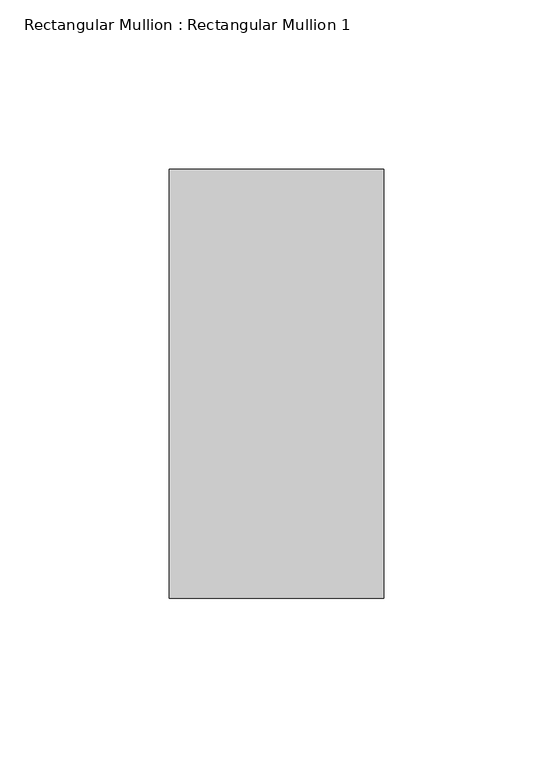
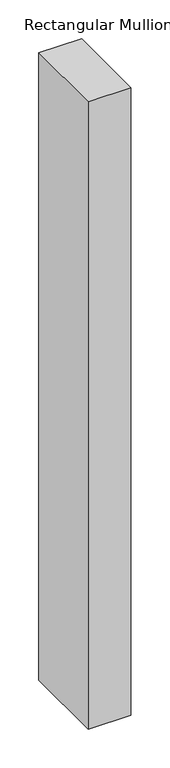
"""IFC4 building model written with IfcOpenShell, lengths in millimetres: member geometry, Rectangular Mullion : Rectangular Mullion 1."""

from ifc_helpers import new_model, si_unit, frame, origin, place, context, project, spatial, polyline, outline, extrude, source, transform, mapped, element, save


def rectangular_mullion_rectangular_mullion_1_0cde6212(model_context):
    return source(origin(), model_context, "Body", "SweptSolid", [
        extrude(outline(polyline([(0.0, 63.5), (0.0, -63.5), (-63.5, -63.5), (-63.5, 63.5), (0.0, 63.5)])), frame((0.0, 0.0, -986.0642857), z_axis=(0.0, 0.0, 1.0), x_axis=(1.0, 0.0, 0.0)), (0.0, 0.0, 1.0), 986.0642857),
    ])


if __name__ == "__main__":
    model = new_model("IFC4")
    model_context = context("Model", 3, world=origin())
    ifc_project = project(units=[si_unit("LENGTHUNIT", "METRE", prefix="MILLI")], contexts=[model_context])
    site = spatial("IfcSite", under=ifc_project)
    building = spatial("IfcBuilding", under=site)
    placement = place(None, origin())
    rectangular_mullion_rectangular_mullion_1_shape = rectangular_mullion_rectangular_mullion_1_0cde6212(model_context)
    element("IfcMember", 1, ObjectType="Rectangular Mullion : Rectangular Mullion 1", at=placement, inside=building, context=model_context, shape_type="MappedRepresentation", body=[
        mapped(rectangular_mullion_rectangular_mullion_1_shape, transform((0.0, 0.0, 0.0), x_axis=(1.0, 0.0, 0.0), y_axis=(0.0, 1.0, 0.0), z_axis=(0.0, 0.0, 1.0))),
    ])
    save(model, "model.ifc")
